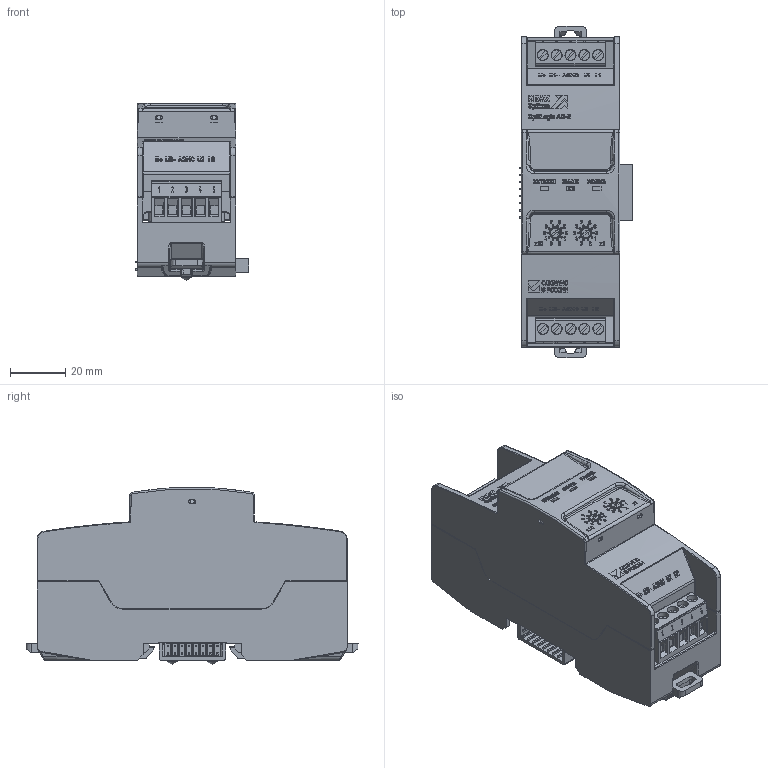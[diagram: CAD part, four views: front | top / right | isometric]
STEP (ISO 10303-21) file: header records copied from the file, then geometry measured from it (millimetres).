
FILE_DESCRIPTION (( 'STEP AP214' ), '1' );
FILE_NAME ('AO-2.STEP', '2020-11-06T07:02:00', ( '' ), ( '' ), 'SwSTEP 2.0', 'SolidWorks 2018', '' );
FILE_SCHEMA (( 'AUTOMOTIVE_DESIGN' ));
Length unit declared in the file: millimetre
Products named in the file (1): AO-2
Bounding box: 40.96 x 119.88 x 64.12 mm (x, y, z)
Volume: 62504.3 mm3; surface area: 69392.5 mm2
Topology: 9 solids, 9 shells, 7207 faces, 18305 edges, 11286 vertices
Faces by surface type: plane 3676, cylinder 1814, bspline 1060, torus 357, sphere 230, cone 70
Full cylindrical faces by diameter (mm): 0.5 x20, 0.609 x2, 1 x32, 1.1 x2, 1.2 x16, 1.4 x10, 1.5 x6, 2.2 x4, 2.8 x8, 3.5 x4, 3.783 x10, 4 x18, 5.5 x4, 6 x4, 7 x2
Entity records: 248048 total; most frequent: CARTESIAN_POINT 85157, ORIENTED_EDGE 35834, DIRECTION 30221, EDGE_CURVE 17917, VERTEX_POINT 11233, VECTOR 10141, LINE 10141, AXIS2_PLACEMENT_3D 10040
